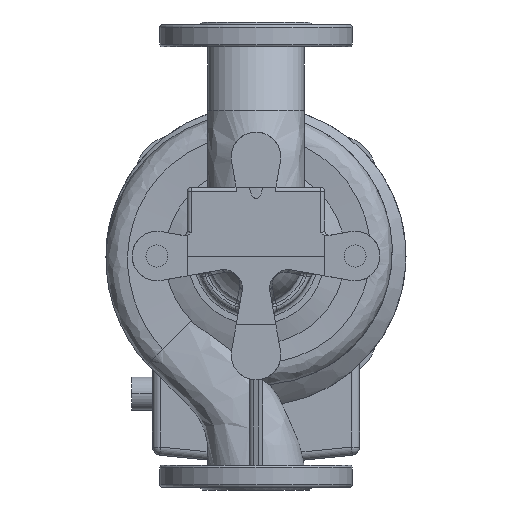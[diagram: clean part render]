
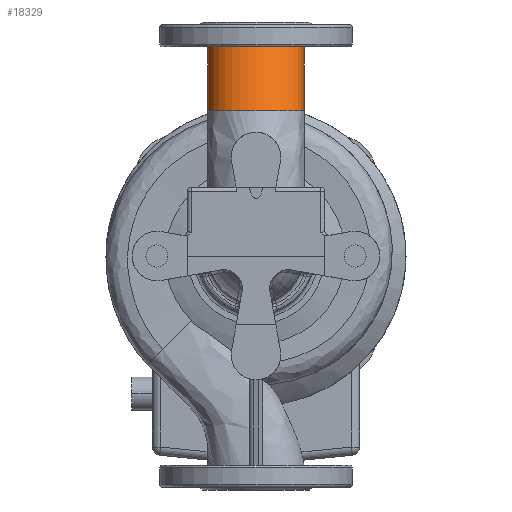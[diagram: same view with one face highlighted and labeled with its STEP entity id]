
A CAD part, front view. The second image highlights one B-rep face of the part: STEP entity #18329.
In plain terms, the highlighted free-form (B-spline) face has degree [3, 1] with [7, 2] control points.
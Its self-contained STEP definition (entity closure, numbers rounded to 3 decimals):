
#1048 = CARTESIAN_POINT ( 'NONE',  ( -35., -32.453, 105.653 ) ) ;
#2118 = CARTESIAN_POINT ( 'NONE',  ( -35., -32.453, 105.653 ) ) ;
#2353 = CIRCLE ( 'NONE', #7190, 35. ) ;
#2813 = EDGE_CURVE ( 'NONE', #15133, #24767, #10011, .T. ) ;
#2953 = CARTESIAN_POINT ( 'NONE',  ( 0., -32.453, 105.653 ) ) ;
#3659 = CARTESIAN_POINT ( 'NONE',  ( 35., 37.547, 105.653 ) ) ;
#4149 = ORIENTED_EDGE ( 'NONE', *, *, #2813, .F. ) ;
#4529 =( BOUNDED_SURFACE ( )  B_SPLINE_SURFACE ( 3, 1, ( 
 ( #1048, #22099 ),
 ( #24164, #17825 ),
 ( #3659, #17957 ),
 ( #7375, #26235 ),
 ( #26520, #9847 ),
 ( #20027, #18235 ),
 ( #11778, #26372 ) ),
 .UNSPECIFIED., .T., .F., .F. ) 
 B_SPLINE_SURFACE_WITH_KNOTS ( ( 4, 3, 4 ),
 ( 2, 2 ),
 ( 0., 0.5, 1. ),
 ( 0., 1. ),
 .UNSPECIFIED. ) 
 GEOMETRIC_REPRESENTATION_ITEM ( )  RATIONAL_B_SPLINE_SURFACE ( (
 ( 1., 1.),
 ( 0.333, 0.333),
 ( 0.333, 0.333),
 ( 1., 1.),
 ( 0.333, 0.333),
 ( 0.333, 0.333),
 ( 1., 1.) ) ) 
 REPRESENTATION_ITEM ( '' )  SURFACE ( )  );
#4968 = CIRCLE ( 'NONE', #5410, 35. ) ;
#5314 = FACE_OUTER_BOUND ( 'NONE', #9418, .T. ) ;
#5410 = AXIS2_PLACEMENT_3D ( 'NONE', #2953, #23879, #21172 ) ;
#5993 = VERTEX_POINT ( 'NONE', #6287 ) ;
#6081 = ORIENTED_EDGE ( 'NONE', *, *, #8413, .F. ) ;
#6287 = CARTESIAN_POINT ( 'NONE',  ( 35., -32.453, 105.653 ) ) ;
#6423 = ORIENTED_EDGE ( 'NONE', *, *, #9971, .T. ) ;
#7190 = AXIS2_PLACEMENT_3D ( 'NONE', #8162, #22343, #10352 ) ;
#7375 = CARTESIAN_POINT ( 'NONE',  ( 35., -32.453, 105.653 ) ) ;
#7494 = CARTESIAN_POINT ( 'NONE',  ( 35., 0., 152. ) ) ;
#8162 = CARTESIAN_POINT ( 'NONE',  ( 0., 0., 152. ) ) ;
#8413 = EDGE_CURVE ( 'NONE', #5993, #15133, #4968, .T. ) ;
#8462 = EDGE_CURVE ( 'NONE', #5993, #11027, #20786, .T. ) ;
#9418 = EDGE_LOOP ( 'NONE', ( #6081, #9921, #6423, #4149 ) ) ;
#9847 = CARTESIAN_POINT ( 'NONE',  ( 35., -70., 152. ) ) ;
#9921 = ORIENTED_EDGE ( 'NONE', *, *, #8462, .T. ) ;
#9971 = EDGE_CURVE ( 'NONE', #11027, #24767, #2353, .T. ) ;
#10011 = B_SPLINE_CURVE_WITH_KNOTS ( 'NONE', 1,
 ( #13810, #26063 ),
 .UNSPECIFIED., .F., .F.,
 ( 2, 2 ),
 ( 0., 1. ),
 .UNSPECIFIED. ) ;
#10352 = DIRECTION ( 'NONE',  ( -1., 0., 0. ) ) ;
#11027 = VERTEX_POINT ( 'NONE', #15814 ) ;
#11762 = CARTESIAN_POINT ( 'NONE',  ( 35., -32.453, 105.653 ) ) ;
#11778 = CARTESIAN_POINT ( 'NONE',  ( -35., -32.453, 105.653 ) ) ;
#13810 = CARTESIAN_POINT ( 'NONE',  ( -35., -32.453, 105.653 ) ) ;
#15133 = VERTEX_POINT ( 'NONE', #2118 ) ;
#15814 = CARTESIAN_POINT ( 'NONE',  ( 35., 0., 152. ) ) ;
#17825 = CARTESIAN_POINT ( 'NONE',  ( -35., 70., 152. ) ) ;
#17957 = CARTESIAN_POINT ( 'NONE',  ( 35., 70., 152. ) ) ;
#18235 = CARTESIAN_POINT ( 'NONE',  ( -35., -70., 152. ) ) ;
#18329 = ADVANCED_FACE ( 'NONE', ( #5314 ), #4529, .F. ) ;
#20027 = CARTESIAN_POINT ( 'NONE',  ( -35., -102.453, 105.653 ) ) ;
#20786 = B_SPLINE_CURVE_WITH_KNOTS ( 'NONE', 1,
 ( #11762, #7494 ),
 .UNSPECIFIED., .F., .F.,
 ( 2, 2 ),
 ( 0., 1. ),
 .UNSPECIFIED. ) ;
#21172 = DIRECTION ( 'NONE',  ( -1., 0., 0. ) ) ;
#22099 = CARTESIAN_POINT ( 'NONE',  ( -35., 0., 152. ) ) ;
#22343 = DIRECTION ( 'NONE',  ( 0., 0., -1. ) ) ;
#23879 = DIRECTION ( 'NONE',  ( 0., 0., -1. ) ) ;
#24164 = CARTESIAN_POINT ( 'NONE',  ( -35., 37.547, 105.653 ) ) ;
#24767 = VERTEX_POINT ( 'NONE', #27169 ) ;
#26063 = CARTESIAN_POINT ( 'NONE',  ( -35., 0., 152. ) ) ;
#26235 = CARTESIAN_POINT ( 'NONE',  ( 35., 0., 152. ) ) ;
#26372 = CARTESIAN_POINT ( 'NONE',  ( -35., 0., 152. ) ) ;
#26520 = CARTESIAN_POINT ( 'NONE',  ( 35., -102.453, 105.653 ) ) ;
#27169 = CARTESIAN_POINT ( 'NONE',  ( -35., 0., 152. ) ) ;
